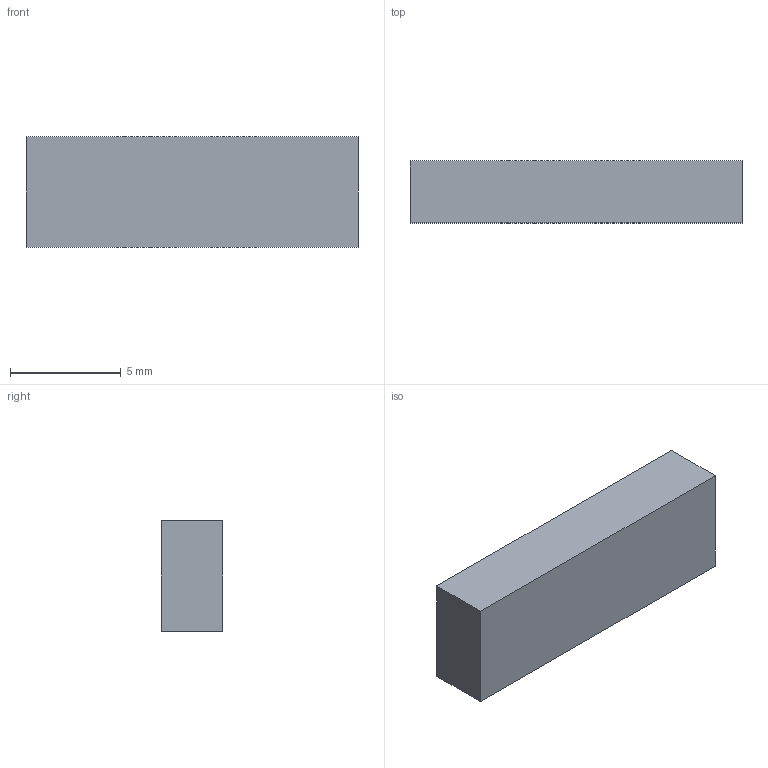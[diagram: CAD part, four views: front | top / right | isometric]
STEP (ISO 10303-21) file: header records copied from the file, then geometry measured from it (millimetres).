
FILE_DESCRIPTION(('Open CASCADE Model'),'2;1');
FILE_NAME('Open CASCADE Shape Model','2026-09-24T05:33:17',('Author'),( 'Open CASCADE'),'Open CASCADE STEP processor 7.8','Open CASCADE 7.8' ,'Unknown');
FILE_SCHEMA(('AUTOMOTIVE_DESIGN { 1 0 10303 214 1 1 1 1 }'));
Length unit declared in the file: millimetre
Products named in the file (1): Open CASCADE STEP translator 7.8 23
Bounding box: 15 x 2.8 x 5 mm (x, y, z)
Volume: 210 mm3; surface area: 262 mm2
Topology: 1 solids, 1 shells, 6 faces, 12 edges, 8 vertices
Faces by surface type: plane 6
Entity records: 322 total; most frequent: CARTESIAN_POINT 51, DIRECTION 50, LINE 36, VECTOR 36, ORIENTED_EDGE 24, PCURVE 24, DEFINITIONAL_REPRESENTATION 24, EDGE_CURVE 12
